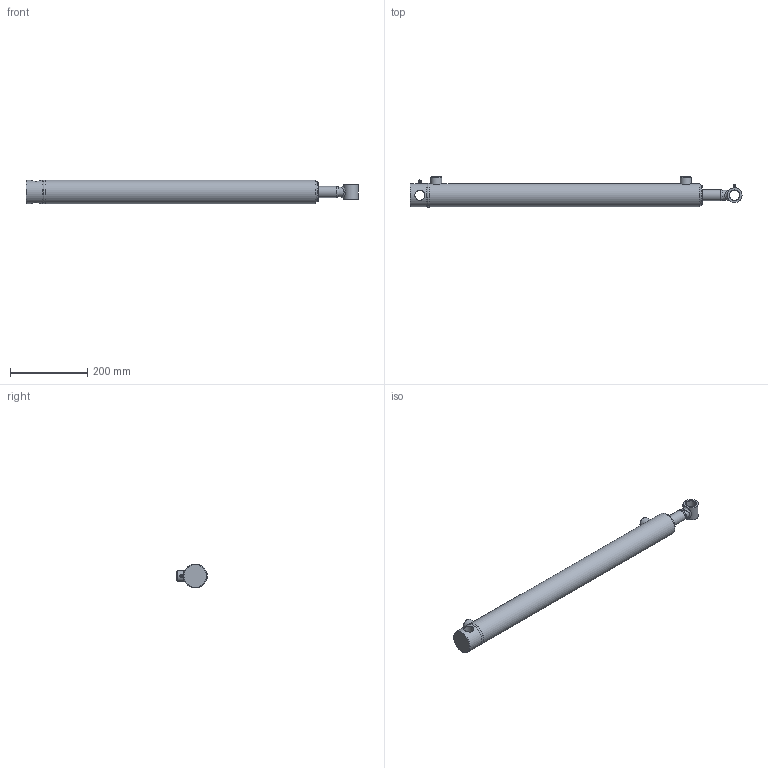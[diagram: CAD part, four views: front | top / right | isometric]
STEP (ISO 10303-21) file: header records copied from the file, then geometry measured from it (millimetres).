
FILE_DESCRIPTION(/* description */ ('Ø2.00 X 24.00 DA'),/* implementation_level */ '2;1');
FILE_NAME(/* name */ 'T:\Aces\Jobs\62ea1c4935a34d1ba5a91dbc6e341b10\result.stp',/* time_stamp */ '2023-07-18T19:59:27+00:00',/* author */ ('AJC'),/* organization */ ('PRINCE MANUFACTURING'),/* preprocessor_version */ 'ST-DEVELOPER v18.1',/* originating_system */ 'Autodesk Inventor 2022',/* authorisation */ '');
FILE_SCHEMA (('AUTOMOTIVE_DESIGN { 1 0 10303 214 3 1 1 }'));
Length unit declared in the file: inch
Products named in the file (21): PC2024011A00-320XYXA; 0611-XYSF000-27600; 0511-T-27600; 161100184; 200015602; 06Weld1_C360; 0711-P-075; 220000208; 0811-G-113; 230025102; 230025002; 240000018; 240061326; 240000326; 0205A-FAW0-29800XA; 0105A-FAW0-29800; 210400807; 02Weld_C360; 240037071; 250001216; 270010020
Assembly tree (22 placements, depth 3):
  PC2024011A00-320XYXA
    0611-XYSF000-27600
      0511-T-27600
      161100184
      200015602  x2
      06Weld1_C360
    0711-P-075
    220000208
    0811-G-113
    230025102
    230025002
    240000018
    240061326
    240000326
    0205A-FAW0-29800XA
      0105A-FAW0-29800
      210400807
      02Weld_C360
    240037071
    250001216
    270010020  x2
Bounding box: 857.25 x 78.61 x 61.85 mm (x, y, z)
Volume: 1316586.6 mm3; surface area: 407775.3 mm2
Topology: 24 solids, 24 shells, 404 faces, 950 edges, 616 vertices
Faces by surface type: plane 104, torus 81, cylinder 77, cone 76, bspline 62, sphere 4
Full cylindrical faces by diameter (mm): 2.143 x4, 5.359 x2, 6.35 x2, 9.525 x2, 17.323 x3, 18.237 x1, 18.288 x1, 18.999 x1, 19.126 x1, 21.615 x1, 25.4 x1, 25.781 x2, 28.575 x4, 28.651 x2, 29.21 x2, 31.598 x1, 34.29 x1, 34.9 x2, 34.95 x1, 35.56 x1, 38.1 x2, 41.377 x2, 42.113 x2, 47.231 x2, 47.371 x1, 47.396 x4, 50.186 x2, 50.571 x6, 50.648 x1, 50.8 x4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
Entity records: 27138 total; most frequent: CARTESIAN_POINT 17850, DIRECTION 1756, ORIENTED_EDGE 1698, EDGE_CURVE 849, AXIS2_PLACEMENT_3D 777, VERTEX_POINT 555, CIRCLE 432, EDGE_LOOP 426
